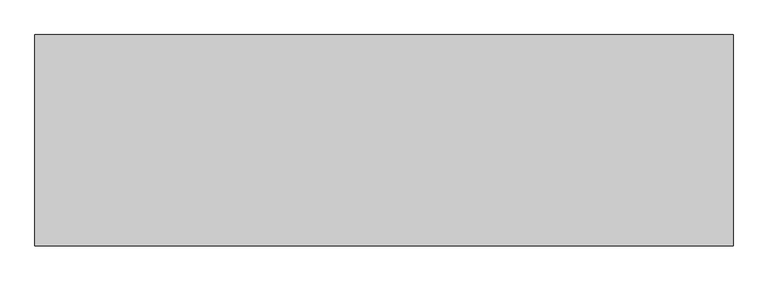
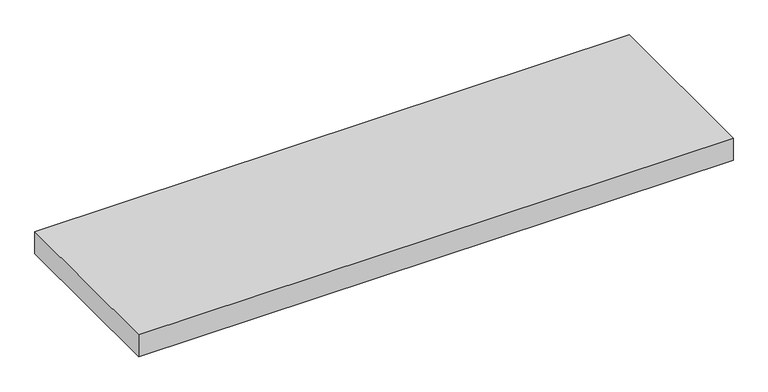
"""IFC4 building model written with IfcOpenShell, lengths in millimetres: proxy geometry, 機械基礎 : 機械基礎."""

import ifcopenshell
import ifcopenshell.guid

model = None  # the IFC model being written
_history = None  # IfcOwnerHistory: only IFC2X3 demands one
_inside = {}  # id of a spatial element -> (the spatial element, [elements in it])
_under = {}  # id of a project, library or spatial element -> (it, [spatial elements below it])
_declared = {}  # id of a project -> (the project, [libraries it declares])
_typed = {}  # id of a type object -> (the type object, [elements of that type])
_made_of = {}  # id of a material, layer set ... -> (it, [elements and type objects made of it])


def new_model(schema):
    """Start an empty IFC model of exactly this schema.

    Asked for "IFC4X3", IfcOpenShell would pick the latest addendum, in which some entities
    have other attributes; the version numbers below select the first issue.
    IFC2X3 requires an IfcOwnerHistory on every rooted entity: one is made here for all.
    """
    global model, _history
    if schema == "IFC4X3":
        model = ifcopenshell.file(schema_version=(4, 3, 0, 0))
    else:
        model = ifcopenshell.file(schema=schema)
    _inside.clear()
    _under.clear()
    _declared.clear()
    _typed.clear()
    _made_of.clear()
    _history = None
    if model.schema == "IFC2X3":
        org = make("IfcOrganization", Name="unknown")
        user = make(
            "IfcPersonAndOrganization",
            ThePerson=make("IfcPerson", FamilyName="unknown"),
            TheOrganization=org,
        )
        app = make(
            "IfcApplication",
            ApplicationDeveloper=org,
            Version="unknown",
            ApplicationFullName="unknown",
            ApplicationIdentifier="unknown",
        )
        _history = make(
            "IfcOwnerHistory",
            OwningUser=user,
            OwningApplication=app,
            ChangeAction="ADDED",
            CreationDate=0,
        )
    return model


def make(cls, **values):
    """One entity of the class cls with the attributes given. An attribute that is None is left unset."""
    return model.create_entity(
        cls, **{name: value for name, value in values.items() if value is not None}
    )


def rooted(cls, **values):
    """An entity with a GlobalId (a new one), such as an element, a storey or a relation."""
    return make(cls, GlobalId=ifcopenshell.guid.new(), OwnerHistory=_history, **values)


def si_unit(unit_type, name, prefix=None):
    """IfcSIUnit, for example si_unit("LENGTHUNIT", "METRE", prefix="MILLI")."""
    return make("IfcSIUnit", UnitType=unit_type, Prefix=prefix, Name=name)


def assignment(units):
    """IfcUnitAssignment: the units of a project."""
    return None if units is None else make("IfcUnitAssignment", Units=units)


def point(xyz):
    """IfcCartesianPoint."""
    return None if xyz is None else make("IfcCartesianPoint", Coordinates=xyz)


def direction(xyz):
    """IfcDirection."""
    return None if xyz is None else make("IfcDirection", DirectionRatios=xyz)


def frame(location, z_axis=None, x_axis=None):
    """IfcAxis2Placement3D, a coordinate frame: its origin and axes. An axis left out is left unset."""
    return make(
        "IfcAxis2Placement3D",
        Location=point(location),
        Axis=direction(z_axis),
        RefDirection=direction(x_axis),
    )


def origin():
    """The frame at (0, 0, 0) with its axes left unset."""
    return frame((0.0, 0.0, 0.0))


def origin_with_axes():
    """The frame at (0, 0, 0) with the z axis (0, 0, 1) and the x axis (1, 0, 0) written out."""
    return frame((0.0, 0.0, 0.0), z_axis=(0.0, 0.0, 1.0), x_axis=(1.0, 0.0, 0.0))


def place(relative_to, where):
    """IfcLocalPlacement: puts the frame where relative to a parent placement (None: the world)."""
    return make(
        "IfcLocalPlacement", PlacementRelTo=relative_to, RelativePlacement=where
    )


def context(
    kind, dimensions, precision=None, world=None, true_north=None, identifier=None
):
    """IfcGeometricRepresentationContext, for example the 3D "Model" context."""
    return make(
        "IfcGeometricRepresentationContext",
        ContextIdentifier=identifier,
        ContextType=kind,
        CoordinateSpaceDimension=dimensions,
        Precision=precision,
        WorldCoordinateSystem=world,
        TrueNorth=true_north,
    )


def project(units=None, contexts=None):
    """IfcProject with its units and contexts."""
    return rooted(
        "IfcProject",
        Name="project",
        RepresentationContexts=contexts,
        UnitsInContext=assignment(units),
    )


def spatial(cls, under=None, at=None, **own):
    """A site, building, storey or space (cls), placed at a placement, below another one or the project."""
    s = rooted(cls, ObjectPlacement=at, **own)
    if under is not None:
        _under.setdefault(under.id(), (under, []))[1].append(s)
    return s


def polyline(points):
    """IfcPolyline through the points."""
    return make("IfcPolyline", Points=[point(p) for p in points])


def outline(outer, holes=None, kind="AREA"):
    """IfcArbitraryClosedProfileDef: a profile drawn as a closed curve; with holes, ...WithVoids."""
    if holes is None:
        return make("IfcArbitraryClosedProfileDef", ProfileType=kind, OuterCurve=outer)
    return make(
        "IfcArbitraryProfileDefWithVoids",
        ProfileType=kind,
        OuterCurve=outer,
        InnerCurves=holes,
    )


def extrude(swept, where, along, depth):
    """IfcExtrudedAreaSolid: the profile swept, set in the frame where, extruded along a direction by depth."""
    return make(
        "IfcExtrudedAreaSolid",
        SweptArea=swept,
        Position=where,
        ExtrudedDirection=direction(along),
        Depth=depth,
    )


def shape(context_of_items, identifier, shape_type, items):
    """IfcShapeRepresentation: the items that make up one representation, for example the "Body"."""
    return make(
        "IfcShapeRepresentation",
        ContextOfItems=context_of_items,
        RepresentationIdentifier=identifier,
        RepresentationType=shape_type,
        Items=items,
    )


def source(mapping_origin, context_of_items, identifier, shape_type, items):
    """IfcRepresentationMap: a shape defined once, which mapped items show again and again."""
    return make(
        "IfcRepresentationMap",
        MappingOrigin=mapping_origin,
        MappedRepresentation=shape(context_of_items, identifier, shape_type, items),
    )


def transform(
    local_origin,
    x_axis=None,
    y_axis=None,
    z_axis=None,
    scale=None,
    scale2=None,
    scale3=None,
    uniform=True,
):
    """IfcCartesianTransformationOperator3D, or its non-uniform kind. x_axis, y_axis, z_axis: its Axis1, 2, 3."""
    if uniform:
        return make(
            "IfcCartesianTransformationOperator3D",
            Axis1=direction(x_axis),
            Axis2=direction(y_axis),
            LocalOrigin=point(local_origin),
            Scale=scale,
            Axis3=direction(z_axis),
        )
    return make(
        "IfcCartesianTransformationOperator3DnonUniform",
        Axis1=direction(x_axis),
        Axis2=direction(y_axis),
        LocalOrigin=point(local_origin),
        Scale=scale,
        Axis3=direction(z_axis),
        Scale2=scale2,
        Scale3=scale3,
    )


def mapped(mapping_source, mapping_target):
    """IfcMappedItem: shows the shape of a source again, moved by a transform."""
    return make(
        "IfcMappedItem", MappingSource=mapping_source, MappingTarget=mapping_target
    )


def made_of(thing, what):
    """Note that an element or type object is made of a material, layer set ...; save() writes the relation."""
    if what is not None:
        _made_of.setdefault(what.id(), (what, []))[1].append(thing)
    return thing


def element(
    cls,
    number,
    at=None,
    inside=None,
    cuts=None,
    type_object=None,
    material=None,
    context=None,
    identifier="Body",
    shape_type=None,
    held_by="IfcProductDefinitionShape",
    body=None,
    shapes=None,
    **own,
):
    """One element of the class cls, such as IfcWall. Its Tag is "e" and its number.

    at: its placement. inside: the storey or other place that contains it. cuts: it is an
    opening in that element (IfcRelVoidsElement). A single representation is given by context,
    identifier, shape_type and body (its items); several are given by shapes. held_by: the class
    of the entity that holds the representations. save() writes the other relations.
    """
    e = rooted(cls, Tag="e%d" % number, ObjectPlacement=at, **own)
    if body is not None:
        shapes = [shape(context, identifier, shape_type, body)]
    if shapes is not None:
        e.Representation = make(held_by, Representations=shapes)
    if inside is not None:
        _inside.setdefault(inside.id(), (inside, []))[1].append(e)
    if cuts is not None:
        rooted(
            "IfcRelVoidsElement", RelatingBuildingElement=cuts, RelatedOpeningElement=e
        )
    if type_object is not None:
        _typed.setdefault(type_object.id(), (type_object, []))[1].append(e)
    return made_of(e, material)


def aggregate(whole, parts):
    """IfcRelAggregates: a whole, such as a stair, and the parts it consists of."""
    return rooted("IfcRelAggregates", RelatingObject=whole, RelatedObjects=parts)


def save(model, path):
    """Write the relations noted so far, then the file.

    IfcRelAggregates (storeys below a building ...), IfcRelContainedInSpatialStructure (elements
    in a storey), IfcRelDefinesByType, IfcRelAssociatesMaterial and IfcRelDeclares: one each for
    every whole, place, type object, material and project.
    """
    for whole, parts in _under.values():
        aggregate(whole, parts)
    for where, things in _inside.values():
        rooted(
            "IfcRelContainedInSpatialStructure",
            RelatedElements=things,
            RelatingStructure=where,
        )
    for kind, things in _typed.values():
        rooted("IfcRelDefinesByType", RelatedObjects=things, RelatingType=kind)
    for what, things in _made_of.values():
        rooted("IfcRelAssociatesMaterial", RelatedObjects=things, RelatingMaterial=what)
    for by, libraries in _declared.values():
        rooted("IfcRelDeclares", RelatingContext=by, RelatedDefinitions=libraries)
    model.write(path)


def specialty_equipment_576017ca(model_context):
    return source(origin(), model_context, "Body", "SweptSolid", [
        extrude(outline(polyline([(1917.0, -580.0), (-1917.0, -580.0), (-1917.0, 580.0), (1917.0, 580.0), (1917.0, -580.0)])), origin_with_axes(), (0.0, 0.0, 1.0), 150.0),
    ])


if __name__ == "__main__":
    model = new_model("IFC4")
    model_context = context("Model", 3, world=origin())
    ifc_project = project(units=[si_unit("LENGTHUNIT", "METRE", prefix="MILLI")], contexts=[model_context])
    site = spatial("IfcSite", under=ifc_project)
    building = spatial("IfcBuilding", under=site)
    placement = place(None, origin())
    specialty_equipment_shape = specialty_equipment_576017ca(model_context)
    element("IfcBuildingElementProxy", 1, Name="機械基礎 : 機械基礎", ObjectType="機械基礎 : 機械基礎", at=placement, inside=building, context=model_context, shape_type="MappedRepresentation", body=[
        mapped(specialty_equipment_shape, transform((0.0, 0.0, 0.0), x_axis=(1.0, 0.0, 0.0), y_axis=(0.0, 1.0, 0.0), z_axis=(0.0, 0.0, 1.0))),
    ])
    save(model, "model.ifc")
